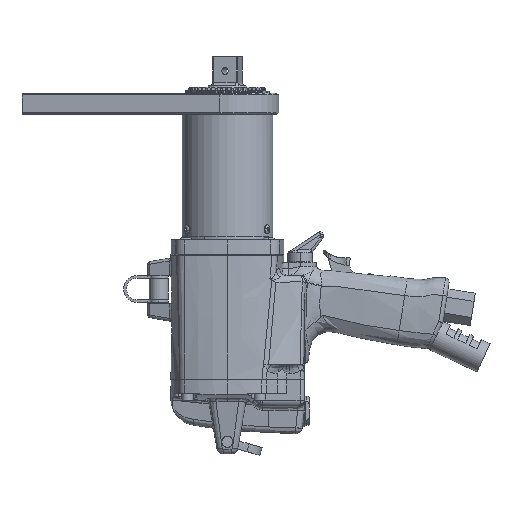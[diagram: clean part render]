
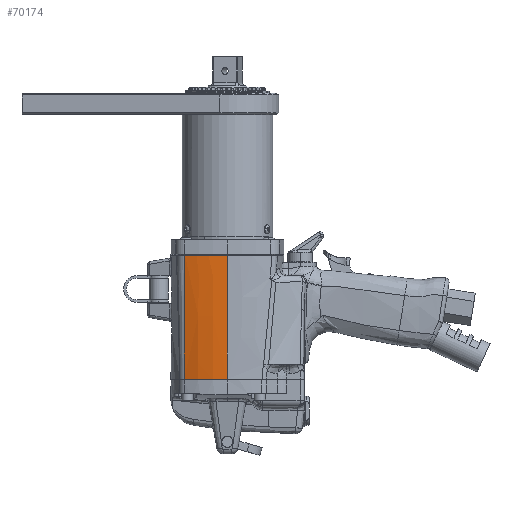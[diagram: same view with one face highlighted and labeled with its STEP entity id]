
A CAD part, left-side view. The second image highlights one B-rep face of the part: STEP entity #70174.
In plain terms, the highlighted free-form (B-spline) face has degree [3, 3] with [4, 9] control points.
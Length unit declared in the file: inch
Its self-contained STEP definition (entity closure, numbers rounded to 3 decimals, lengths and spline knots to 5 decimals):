
#2121 = CARTESIAN_POINT ( 'NONE',  ( -1.65354, 0.43756, -3.62205 ) ) ;
#4277 = EDGE_CURVE ( 'NONE', #108363, #68016, #114783, .T. ) ;
#7356 = CARTESIAN_POINT ( 'NONE',  ( -1.65354, 0., -2.4147 ) ) ;
#7557 = CARTESIAN_POINT ( 'NONE',  ( -1.65354, 0., -0.20122 ) ) ;
#7940 = CARTESIAN_POINT ( 'NONE',  ( -1.65354, 0.43167, -2.45965 ) ) ;
#8321 = CARTESIAN_POINT ( 'NONE',  ( -1.48814, 1.23915, 0. ) ) ;
#9901 = ORIENTED_EDGE ( 'NONE', *, *, #4277, .T. ) ;
#14007 = EDGE_CURVE ( 'NONE', #108363, #40307, #60107, .T. ) ;
#15940 = CARTESIAN_POINT ( 'NONE',  ( -1.59808, 0.83466, 0. ) ) ;
#16422 = CARTESIAN_POINT ( 'NONE',  ( -1.65354, 0., -1.20735 ) ) ;
#16795 = CARTESIAN_POINT ( 'NONE',  ( -1.65354, 0.43679, -3.47 ) ) ;
#17169 = CARTESIAN_POINT ( 'NONE',  ( -1.4714, 1.2437, -0.60367 ) ) ;
#25225 = EDGE_LOOP ( 'NONE', ( #83001, #112708, #9901, #80004 ) ) ;
#25294 = CARTESIAN_POINT ( 'NONE',  ( -1.65354, 0., -2.465 ) ) ;
#25673 = CARTESIAN_POINT ( 'NONE',  ( -1.59808, 0.83466, 0. ) ) ;
#26067 = CARTESIAN_POINT ( 'NONE',  ( -1.43793, 1.25278, -1.81102 ) ) ;
#33720 = CARTESIAN_POINT ( 'NONE',  ( -1.65354, 0., 0. ) ) ;
#34207 = CARTESIAN_POINT ( 'NONE',  ( -1.65354, 0., -3.47113 ) ) ;
#34597 = CARTESIAN_POINT ( 'NONE',  ( -1.58982, 0.84343, -0.55185 ) ) ;
#34973 = CARTESIAN_POINT ( 'NONE',  ( -1.40306, 1.26225, -3.06868 ) ) ;
#40307 = VERTEX_POINT ( 'NONE', #113146 ) ;
#43091 = CARTESIAN_POINT ( 'NONE',  ( -1.65354, 0.41917, 0. ) ) ;
#43465 = CARTESIAN_POINT ( 'NONE',  ( -1.57497, 0.85582, -1.7227 ) ) ;
#43842 = CARTESIAN_POINT ( 'NONE',  ( -1.38772, 1.26642, -3.62205 ) ) ;
#46129 = CARTESIAN_POINT ( 'NONE',  ( -1.38772, 1.26642, -3.62205 ) ) ;
#47625 = CARTESIAN_POINT ( 'NONE',  ( -1.65354, 0., 0. ) ) ;
#49042 = CARTESIAN_POINT ( 'NONE',  ( -1.38772, 1.26642, -3.62205 ) ) ;
#51422 = CARTESIAN_POINT ( 'NONE',  ( -1.65354, 0., -1.20735 ) ) ;
#51999 = CARTESIAN_POINT ( 'NONE',  ( -1.65354, 0.42223, -0.60012 ) ) ;
#52388 = CARTESIAN_POINT ( 'NONE',  ( -1.56318, 0.86822, -2.99012 ) ) ;
#55174 = CARTESIAN_POINT ( 'NONE',  ( -1.38772, 1.26642, -3.62205 ) ) ;
#59112 = EDGE_CURVE ( 'NONE', #68016, #107108, #79632, .T. ) ;
#60107 = B_SPLINE_CURVE_WITH_KNOTS ( 'NONE', 3,
 ( #113356, #51422, #7356, #69194 ),
 .UNSPECIFIED., .F., .F.,
 ( 4, 4 ),
 ( 0., 1. ),
 .UNSPECIFIED. ) ;
#60372 = EDGE_CURVE ( 'NONE', #107108, #40307, #110888, .T. ) ;
#60893 = CARTESIAN_POINT ( 'NONE',  ( -1.65354, 0.42835, -1.80542 ) ) ;
#61268 = CARTESIAN_POINT ( 'NONE',  ( -1.56366, 0.86579, -3.62205 ) ) ;
#63953 = CARTESIAN_POINT ( 'NONE',  ( -1.65354, 0., -3.62205 ) ) ;
#68016 = VERTEX_POINT ( 'NONE', #88598 ) ;
#69194 = CARTESIAN_POINT ( 'NONE',  ( -1.65354, 0., -3.62205 ) ) ;
#69394 = CARTESIAN_POINT ( 'NONE',  ( -1.65354, 0., -0.60367 ) ) ;
#69788 = CARTESIAN_POINT ( 'NONE',  ( -1.65354, 0.43474, -3.06489 ) ) ;
#70174 = ADVANCED_FACE ( 'NONE', ( #86270 ), #95716, .T. ) ;
#70177 = CARTESIAN_POINT ( 'NONE',  ( -1.48256, 1.24067, -0.20122 ) ) ;
#75359 = CARTESIAN_POINT ( 'NONE',  ( -1.45467, 1.24824, -1.20735 ) ) ;
#77948 = CARTESIAN_POINT ( 'NONE',  ( -1.65354, 0., 0. ) ) ;
#78331 = CARTESIAN_POINT ( 'NONE',  ( -1.65354, 0., -1.81102 ) ) ;
#78704 = CARTESIAN_POINT ( 'NONE',  ( -1.65354, 0.43756, -3.62205 ) ) ;
#79069 = CARTESIAN_POINT ( 'NONE',  ( -1.45467, 1.24824, -1.20735 ) ) ;
#79632 = B_SPLINE_CURVE_WITH_KNOTS ( 'NONE', 3,
 ( #84222, #75359, #102045, #49042 ),
 .UNSPECIFIED., .F., .F.,
 ( 4, 4 ),
 ( 0., 1. ),
 .UNSPECIFIED. ) ;
#80004 = ORIENTED_EDGE ( 'NONE', *, *, #59112, .T. ) ;
#83001 = ORIENTED_EDGE ( 'NONE', *, *, #60372, .T. ) ;
#84222 = CARTESIAN_POINT ( 'NONE',  ( -1.48814, 1.23915, 0. ) ) ;
#86270 = FACE_OUTER_BOUND ( 'NONE', #25225, .T. ) ;
#86696 = CARTESIAN_POINT ( 'NONE',  ( -1.65354, 0.41917, 0. ) ) ;
#87173 = CARTESIAN_POINT ( 'NONE',  ( -1.65354, 0., -3.06868 ) ) ;
#87558 = CARTESIAN_POINT ( 'NONE',  ( -1.59533, 0.83758, -0.18379 ) ) ;
#87927 = CARTESIAN_POINT ( 'NONE',  ( -1.4198, 1.25771, -2.465 ) ) ;
#88598 = CARTESIAN_POINT ( 'NONE',  ( -1.48814, 1.23915, 0. ) ) ;
#95606 = CARTESIAN_POINT ( 'NONE',  ( -1.48814, 1.23915, 0. ) ) ;
#95716 =( BOUNDED_SURFACE ( )  B_SPLINE_SURFACE ( 3, 3, ( 
 ( #77948, #7557, #69394, #16422, #78331, #25294, #87173, #34207, #96097 ),
 ( #43091, #105007, #51999, #113942, #60893, #7940, #69788, #16795, #78704 ),
 ( #25673, #87558, #34597, #96475, #43465, #105407, #52388, #114315, #61268 ),
 ( #8321, #70177, #17169, #79069, #26067, #87927, #34973, #96849, #43842 ) ),
 .UNSPECIFIED., .F., .F., .T. ) 
 B_SPLINE_SURFACE_WITH_KNOTS ( ( 4, 4 ),
 ( 4, 1, 1, 1, 1, 1, 4 ),
 ( 0.14286, 0.28571 ),
 ( 0., 0.16667, 0.33333, 0.5, 0.66667, 0.875, 1. ),
 .UNSPECIFIED. ) 
 GEOMETRIC_REPRESENTATION_ITEM ( )  RATIONAL_B_SPLINE_SURFACE ( (
 ( 1., 1., 1., 1., 1., 1., 1., 1., 1.),
 ( 0.994, 0.994, 0.993, 0.991, 0.99, 0.989, 0.986, 0.986, 0.986),
 ( 0.994, 0.994, 0.993, 0.991, 0.99, 0.989, 0.986, 0.986, 0.986),
 ( 1., 1., 1., 1., 1., 1., 1., 1., 1.) ) ) 
 REPRESENTATION_ITEM ( '' )  SURFACE ( )  );
#96097 = CARTESIAN_POINT ( 'NONE',  ( -1.65354, 0., -3.62205 ) ) ;
#96475 = CARTESIAN_POINT ( 'NONE',  ( -1.58186, 0.85076, -1.13086 ) ) ;
#96849 = CARTESIAN_POINT ( 'NONE',  ( -1.3919, 1.26528, -3.47113 ) ) ;
#99164 = CARTESIAN_POINT ( 'NONE',  ( -1.56366, 0.86579, -3.62205 ) ) ;
#102045 = CARTESIAN_POINT ( 'NONE',  ( -1.42119, 1.25733, -2.4147 ) ) ;
#105007 = CARTESIAN_POINT ( 'NONE',  ( -1.65354, 0.42019, -0.19987 ) ) ;
#105407 = CARTESIAN_POINT ( 'NONE',  ( -1.56754, 0.86491, -2.36882 ) ) ;
#107108 = VERTEX_POINT ( 'NONE', #55174 ) ;
#108363 = VERTEX_POINT ( 'NONE', #47625 ) ;
#110888 =( BOUNDED_CURVE ( )  B_SPLINE_CURVE ( 3, ( #46129, #99164, #2121, #63953 ),
 .UNSPECIFIED., .F., .F. ) 
 B_SPLINE_CURVE_WITH_KNOTS ( ( 4, 4 ),
 ( 0., 1. ),
 .UNSPECIFIED. ) 
 CURVE ( )  GEOMETRIC_REPRESENTATION_ITEM ( )  RATIONAL_B_SPLINE_CURVE ( ( 1., 0.986, 0.986, 1. ) ) 
 REPRESENTATION_ITEM ( '' )  );
#112708 = ORIENTED_EDGE ( 'NONE', *, *, #14007, .F. ) ;
#113146 = CARTESIAN_POINT ( 'NONE',  ( -1.65354, 0., -3.62205 ) ) ;
#113356 = CARTESIAN_POINT ( 'NONE',  ( -1.65354, 0., 0. ) ) ;
#113942 = CARTESIAN_POINT ( 'NONE',  ( -1.65354, 0.42529, -1.20214 ) ) ;
#114315 = CARTESIAN_POINT ( 'NONE',  ( -1.56353, 0.86645, -3.44959 ) ) ;
#114783 =( BOUNDED_CURVE ( )  B_SPLINE_CURVE ( 3, ( #33720, #86696, #15940, #95606 ),
 .UNSPECIFIED., .F., .T. ) 
 B_SPLINE_CURVE_WITH_KNOTS ( ( 4, 4 ),
 ( 0., 1. ),
 .UNSPECIFIED. ) 
 CURVE ( )  GEOMETRIC_REPRESENTATION_ITEM ( )  RATIONAL_B_SPLINE_CURVE ( ( 1., 0.994, 0.994, 1. ) ) 
 REPRESENTATION_ITEM ( '' )  );
